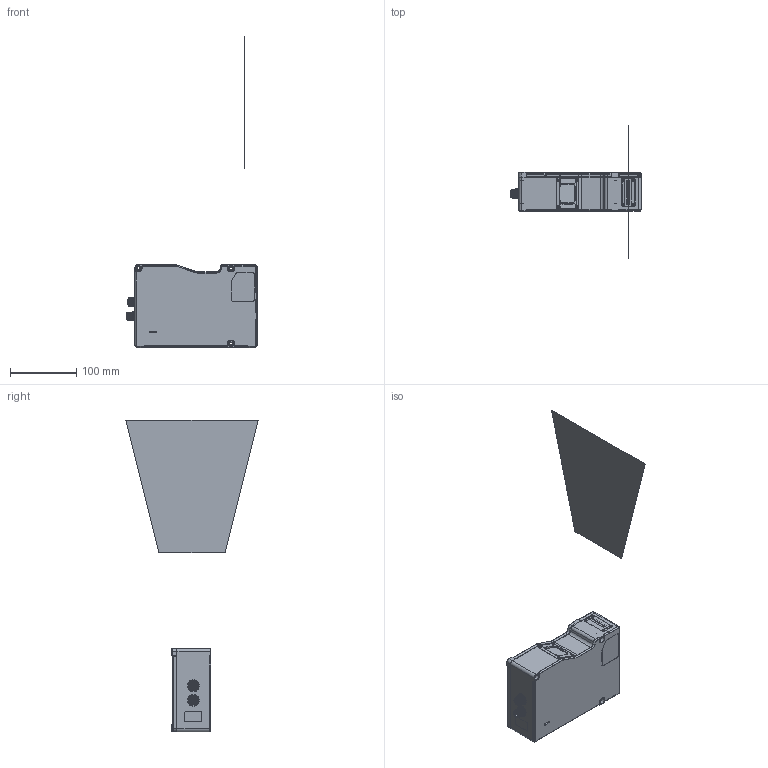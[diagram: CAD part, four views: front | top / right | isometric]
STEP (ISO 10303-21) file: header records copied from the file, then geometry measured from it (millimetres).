
FILE_DESCRIPTION((''),'2;1');
FILE_NAME('MV-DP2240-01P_ASM','2025-07-24T20:19:56',('wangminrui'),(''),'CREO PARAMETRIC BY PTC INC, 2020044','CREO PARAMETRIC BY PTC INC, 2020044','');
FILE_SCHEMA(('CONFIG_CONTROL_DESIGN'));
Products named in the file (46): HANGKONGTOUFPC_1_ASM_2; L102-M12-Z08A11F_1_1; L102-M12-Z12A23C_1_1_1; L102-M12-Z12A23C_1_2_1; L102-M12-Z12A23C_1_3_1; L102-M12-Z12A23C_1_4_1; L102-M12-Z12A23C_1_5_1; L102-M12-Z12A23C_1_6_1; L102-M12-Z12A23C_1_7_1; L102-M12-Z12A23C_1_8_1; L102-M12-Z12A23C_1_9_1; L102-M12-Z12A23C_1_10_1; L102-M12-Z12A23C_1_11_1; L102-M12-Z12A23C_1_12_1; L102-M12-Z12A23C_1_13_1; L102-M12-Z12A23C_1_14_1; L102-M12-Z12A23C_1_15_1; L102-M12-Z12A23C_1_16_1; L102-M12-Z12A23C_1_17_1; L102-M12-Z12A23C_1_18_1; L102-M12-Z12A23C_1_19_1; L102-M12-Z12A23C_1_20_1; L102-M12-Z12A23C_1_21_1; L102-M12-Z12A23C_1_22_1; L102-M12-Z12A23C_1_23_1; L102-M12-Z12A23C_1_24_1; L102-M12-Z12A23C_1_25_1; L102-M12-Z12A23C_1_26_1; L102-M12-Z12A23C_1_ASM_1_ASM; DE-14-032741_ASM_1_ASM_2_ASM; DE-14-005311_1_2; JINGTOUXIANWEIGONGZHUANG_ASM_1_; DE-14-044133_1_2; DE-18-000119_1_1; SC-KM2X4-H-B_1_1; DE-20-017297-2470V2_0-NEW_ASM_1_ASM; DE-14-035651_1_3; DE-18-000160_1_1; LASER-GAIBAN-4550_ASM_1_ASM_2_ASM; DE-13-001557_5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
Assembly tree (52 placements, depth 5):
  MV-DP2240-01P_ASM
    0000-DP2470-2240-V2_0_ASM_1_ASM_ASM
      DE-14-032741_ASM_1_ASM_2_ASM
        HANGKONGTOUFPC_1_ASM_2
        L102-M12-Z08A11F_1_1
        L102-M12-Z12A23C_1_ASM_1_ASM
          L102-M12-Z12A23C_1_1_1
          L102-M12-Z12A23C_1_2_1
          L102-M12-Z12A23C_1_3_1
          L102-M12-Z12A23C_1_4_1
          L102-M12-Z12A23C_1_5_1
          L102-M12-Z12A23C_1_6_1
          L102-M12-Z12A23C_1_7_1
          L102-M12-Z12A23C_1_8_1
          L102-M12-Z12A23C_1_9_1
          L102-M12-Z12A23C_1_10_1
          L102-M12-Z12A23C_1_11_1
          L102-M12-Z12A23C_1_12_1
          L102-M12-Z12A23C_1_13_1
          L102-M12-Z12A23C_1_14_1
          L102-M12-Z12A23C_1_15_1
          L102-M12-Z12A23C_1_16_1
          L102-M12-Z12A23C_1_17_1
          L102-M12-Z12A23C_1_18_1
          L102-M12-Z12A23C_1_19_1
          L102-M12-Z12A23C_1_20_1
          L102-M12-Z12A23C_1_21_1
          L102-M12-Z12A23C_1_22_1
          L102-M12-Z12A23C_1_23_1
          L102-M12-Z12A23C_1_24_1
          L102-M12-Z12A23C_1_25_1
          L102-M12-Z12A23C_1_26_1
      DE-14-005311_1_2
      JINGTOUXIANWEIGONGZHUANG_ASM_1_
      DE-20-017297-2470V2_0-NEW_ASM_1_ASM
        DE-14-044133_1_2
        DE-18-000119_1_1
        SC-KM2X4-H-B_1_1  x4
      LASER-GAIBAN-4550_ASM_1_ASM_2_ASM
        DE-14-035651_1_3
        DE-18-000160_1_1
        SC-KM2X4-H-B_1_1  x4
      KAIMOJIANZHENGHE-22402470_ASM_3_ASM
        DE-13-001555_ASM_2_ASM
          DE-13-001557_5
        DE-13-001560_ASM_2_ASM
          DE-13-001561_3
Bounding box: 198.3 x 200 x 470.5 mm (x, y, z)
Volume: 170066.6 mm3; surface area: 178082.6 mm2
Topology: 41 solids, 69 shells, 2174 faces, 5803 edges, 3770 vertices
Faces by surface type: cylinder 746, plane 642, cone 455, bspline 167, torus 123, sphere 40, extrusion 1
Entity records: 91200 total; most frequent: CARTESIAN_POINT 39651, ORIENTED_EDGE 10676, DIRECTION 10673, EDGE_CURVE 5367, AXIS2_PLACEMENT_3D 4242, VERTEX_POINT 3546, EDGE_LOOP 2291, CIRCLE 2226
